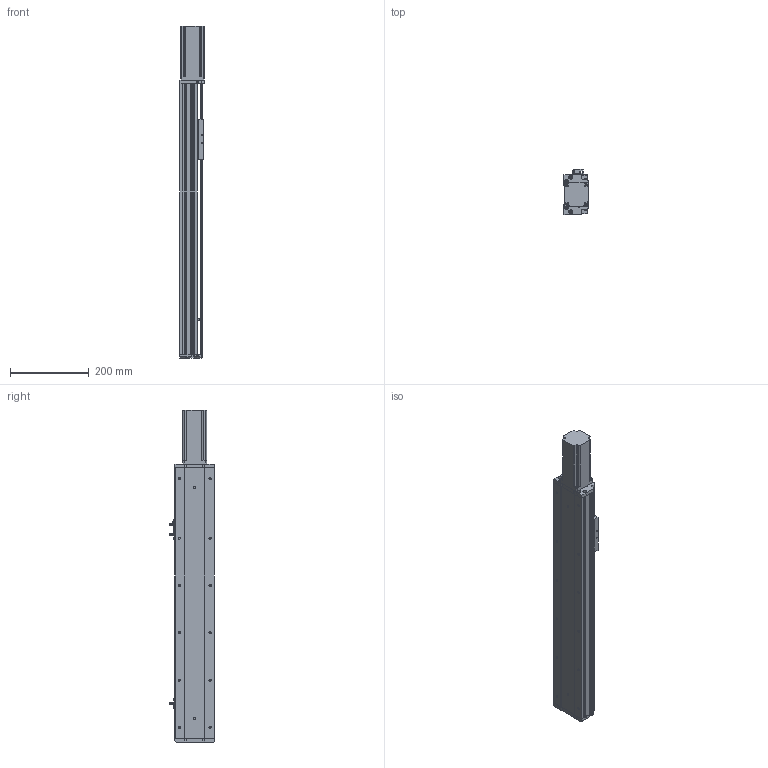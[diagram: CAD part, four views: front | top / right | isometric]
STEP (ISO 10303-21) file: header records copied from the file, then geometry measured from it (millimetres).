
FILE_DESCRIPTION (( 'STEP AP214' ), '1' );
FILE_NAME ('KSD100S-S450-MN-CM.STEP', '2019-08-30T07:00:17', ( '微软用户' ), ( '微软中国' ), 'SwSTEP 2.0', 'SolidWorks 2014', '' );
FILE_SCHEMA (( 'AUTOMOTIVE_DESIGN' ));
Length unit declared in the file: millimetre
Products named in the file (9): 台达ECMA－C20604AS伺服电机; 覜茼え100遵圉猾敕; U倰嫖萇EEㄜSX672; 100宽防尘板丝杆450行程不带电机座; 100宽马达安装板不带电机座; 100宽滚珠螺姆安装板半封闭; 100遵傷啣; 100宽底板半封闭450行程丝杆不带电机座; KSD100S-S450-MN-CM
Assembly tree (10 placements, depth 2):
  KSD100S-S450-MN-CM
    100宽底板半封闭450行程丝杆不带电机座
    100遵傷啣
    100宽滚珠螺姆安装板半封闭
    100宽马达安装板不带电机座
    100宽防尘板丝杆450行程不带电机座
    U倰嫖萇EEㄜSX672  x3
    覜茼え100遵圉猾敕
    台达ECMA－C20604AS伺服电机
Bounding box: 62 x 113.7 x 842 mm (x, y, z)
Volume: 1871613.7 mm3; surface area: 555258.3 mm2
Topology: 11 solids, 11 shells, 1050 faces, 2960 edges, 1877 vertices
Faces by surface type: cylinder 487, plane 452, cone 111
Entity records: 35546 total; most frequent: CARTESIAN_POINT 6860, DIRECTION 4747, ORIENTED_EDGE 4604, EDGE_CURVE 2302, AXIS2_PLACEMENT_3D 1704, VERTEX_POINT 1501, LINE 1339, VECTOR 1339
